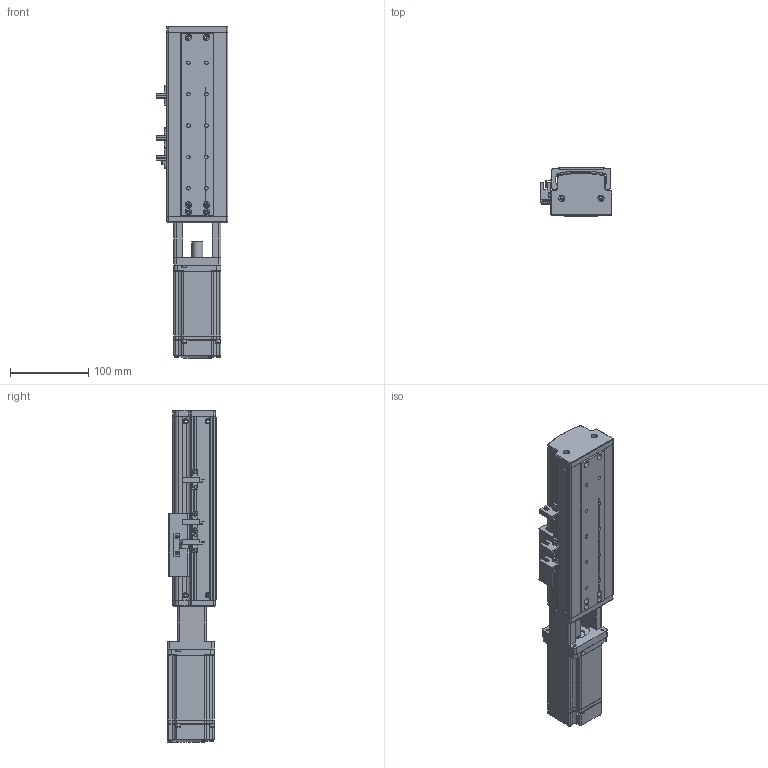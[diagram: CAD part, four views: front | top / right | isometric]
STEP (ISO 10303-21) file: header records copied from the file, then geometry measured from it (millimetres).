
FILE_DESCRIPTION (( 'STEP AP214' ), '1' );
FILE_NAME ('KSD75S-S80-MT-CM.STEP', '2019-10-18T07:28:39', ( '微软用户' ), ( '微软中国' ), 'SwSTEP 2.0', 'SolidWorks 2014', '' );
FILE_SCHEMA (( 'AUTOMOTIVE_DESIGN' ));
Length unit declared in the file: millimetre
Products named in the file (12): MGW15H賑寢80俴最; KSD75S-S80-MT-CM; MHMD042G1CA_2_03; 覜茼え100遵圉猾敕; U倰嫖萇EEㄜSX672; 綴傷啣 ; 100遵鎮湛假蚾啣1 ; ヶ傷啣; 75裔啣-80俴最; 75遵耀郪耜啣-80俴最; 75遵賑雄釱; MGW15H賑寢80俴最 
Assembly tree (14 placements, depth 3):
  KSD75S-S80-MT-CM
    MGW15H賑寢80俴最 
      MGW15H賑寢80俴最
    75遵賑雄釱
    75遵耀郪耜啣-80俴最  x2
    75裔啣-80俴最
    ヶ傷啣
    100遵鎮湛假蚾啣1 
    綴傷啣 
    U倰嫖萇EEㄜSX672  x3
    覜茼え100遵圉猾敕
    MHMD042G1CA_2_03
Bounding box: 91.7 x 63 x 423.5 mm (x, y, z)
Volume: 470117.4 mm3; surface area: 290581.5 mm2
Topology: 12 solids, 13 shells, 1326 faces, 3789 edges, 2467 vertices
Faces by surface type: cylinder 596, plane 583, cone 129, bspline 18
Entity records: 42740 total; most frequent: CARTESIAN_POINT 8197, DIRECTION 6193, ORIENTED_EDGE 5858, EDGE_CURVE 3000, AXIS2_PLACEMENT_3D 2242, VERTEX_POINT 1985, LINE 1709, VECTOR 1709
